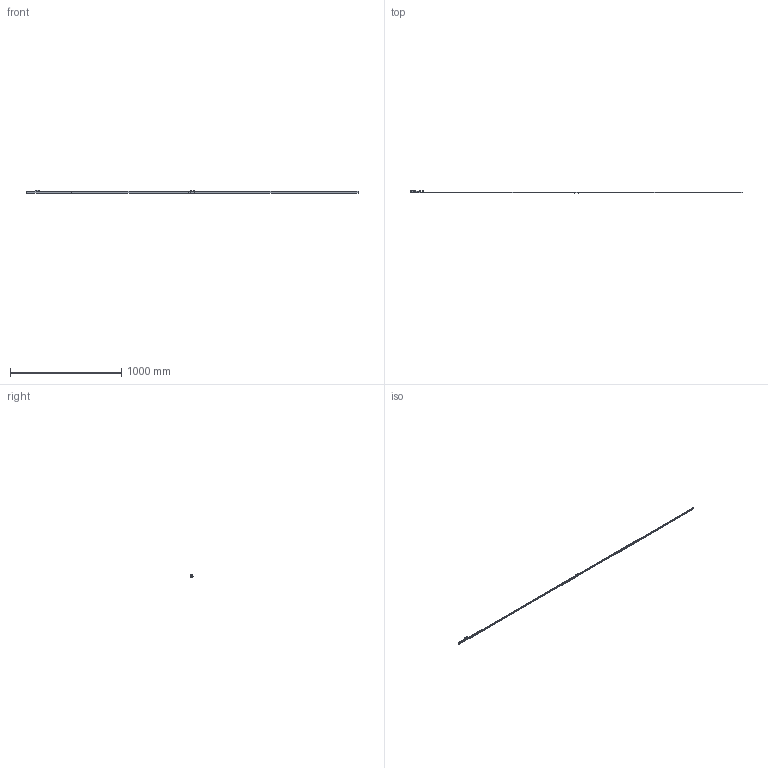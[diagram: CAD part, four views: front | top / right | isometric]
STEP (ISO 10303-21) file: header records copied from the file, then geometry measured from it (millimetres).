
FILE_DESCRIPTION(('Creo Elements/Direct Modeling STEP Export'),'2;1');
FILE_NAME('EXG_EXGA-2940.stp','2017-01-16T 9:49:04',(''),(''),'Creo Elements/Direct Modeling STEP processor for AP214 (Solid Model)','Creo Elements/Direct Modeling 18.1H 24-Oct-2015 (C) Parametric Technology GmbH','');
FILE_SCHEMA(('AUTOMOTIVE_DESIGN { 1 0 10303 214 1 1 1 1 }'));
Length unit declared in the file: millimetre
Products named in the file (4): CABEZA_REGLA_EXPOSED; Regla_64
Assembly tree (2 placements, depth 2):
  CABEZA_REGLA_EXPOSED
    CABEZA_REGLA_EXPOSED
  Regla_64
    Regla_64
Bounding box: 2978 x 19.51 x 29.31 mm (x, y, z)
Volume: 112915 mm3; surface area: 191750.6 mm2
Topology: 2 solids, 4 shells, 634 faces, 1725 edges, 1110 vertices
Faces by surface type: plane 329, cylinder 201, cone 88, torus 16
Entity records: 21154 total; most frequent: ORIENTED_EDGE 3426, CARTESIAN_POINT 3425, DIRECTION 2843, EDGE_CURVE 1713, VERTEX_POINT 1110, AXIS2_PLACEMENT_3D 957, VECTOR 929, LINE 929
